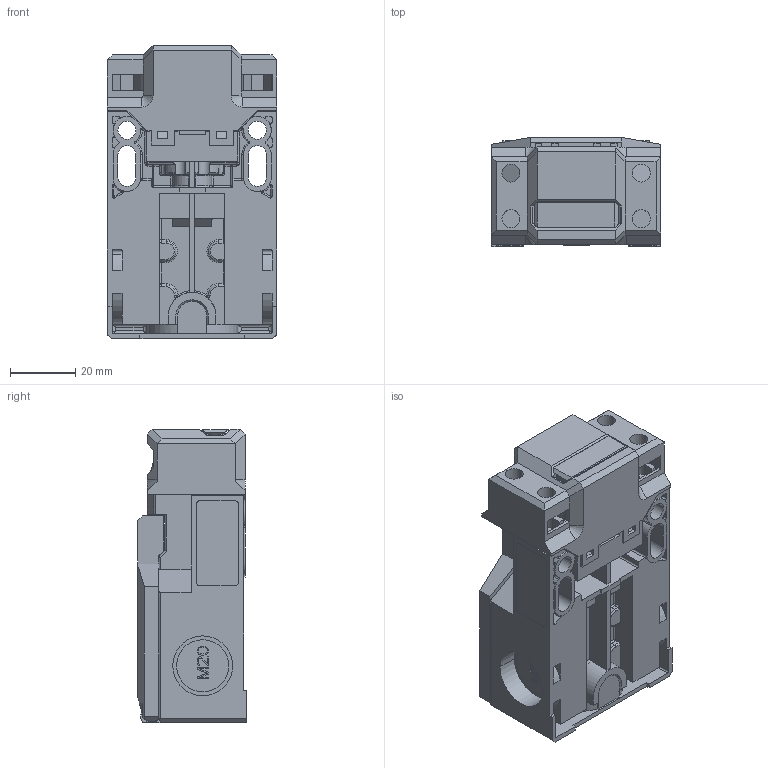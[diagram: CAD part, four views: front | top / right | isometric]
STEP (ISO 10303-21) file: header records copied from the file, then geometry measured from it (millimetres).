
FILE_DESCRIPTION((''),'2;1');
FILE_NAME('6016169183_01','2026-10-14T13:32:09',('Michael.Schnitker'),(''),'CREO PARAMETRIC BY PTC INC, 2022124','CREO PARAMETRIC BY PTC INC, 2022124','');
FILE_SCHEMA(('AUTOMOTIVE_DESIGN { 1 0 10303 214 1 1 1 1 }'));
Length unit declared in the file: millimetre
Products named in the file (1): 6016169183_01
Bounding box: 52.1 x 33.6 x 90.1 mm (x, y, z)
Volume: 95272.1 mm3; surface area: 40527.5 mm2
Topology: 1 solids, 2 shells, 1515 faces, 4229 edges, 2672 vertices
Faces by surface type: plane 972, cylinder 370, torus 89, sphere 49, cone 19, bspline 16
Entity records: 50269 total; most frequent: CARTESIAN_POINT 10512, ORIENTED_EDGE 8446, DIRECTION 7940, EDGE_CURVE 4223, VECTOR 3141, LINE 3141, VERTEX_POINT 2672, AXIS2_PLACEMENT_3D 2398
